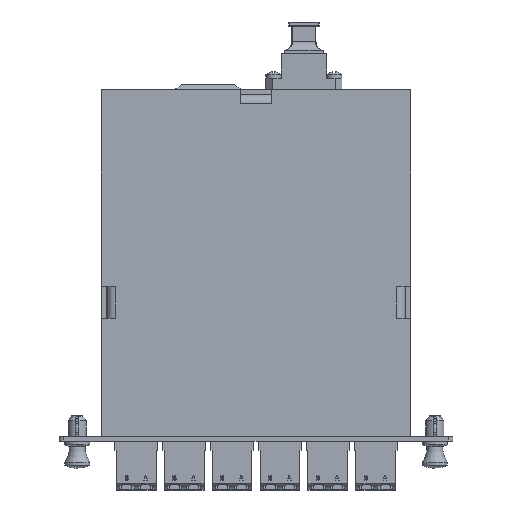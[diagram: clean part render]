
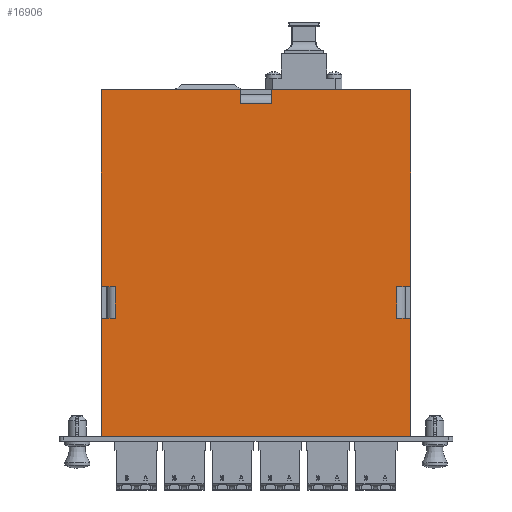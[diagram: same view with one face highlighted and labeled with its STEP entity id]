
A CAD part, top view. The second image highlights one B-rep face of the part: STEP entity #16906.
In plain terms, the highlighted planar face has unit normal (0, 0, 1).
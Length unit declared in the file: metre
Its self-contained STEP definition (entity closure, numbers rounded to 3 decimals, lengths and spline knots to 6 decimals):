
#4397=ORIENTED_EDGE('',*,*,#7425,.F.);
#4398=ORIENTED_EDGE('',*,*,#7422,.F.);
#4399=ORIENTED_EDGE('',*,*,#7391,.T.);
#4400=ORIENTED_EDGE('',*,*,#7440,.F.);
#4401=ORIENTED_EDGE('',*,*,#7421,.F.);
#4402=ORIENTED_EDGE('',*,*,#7416,.F.);
#4403=ORIENTED_EDGE('',*,*,#7413,.T.);
#4404=ORIENTED_EDGE('',*,*,#7410,.T.);
#4405=ORIENTED_EDGE('',*,*,#7441,.T.);
#4406=ORIENTED_EDGE('',*,*,#7397,.F.);
#4407=ORIENTED_EDGE('',*,*,#7407,.T.);
#4408=ORIENTED_EDGE('',*,*,#7404,.F.);
#4409=ORIENTED_EDGE('',*,*,#7401,.F.);
#4410=ORIENTED_EDGE('',*,*,#7395,.T.);
#4411=ORIENTED_EDGE('',*,*,#7442,.F.);
#4412=ORIENTED_EDGE('',*,*,#7430,.F.);
#7391=EDGE_CURVE('',#9208,#9207,#10999,.F.);
#7395=EDGE_CURVE('',#9212,#9211,#11002,.F.);
#7397=EDGE_CURVE('',#9213,#9214,#11004,.F.);
#7401=EDGE_CURVE('',#9212,#9217,#11007,.T.);
#7404=EDGE_CURVE('',#9217,#9219,#11010,.T.);
#7407=EDGE_CURVE('',#9213,#9219,#11013,.T.);
#7410=EDGE_CURVE('',#9223,#9221,#11015,.F.);
#7413=EDGE_CURVE('',#9225,#9223,#11018,.T.);
#7416=EDGE_CURVE('',#9225,#9227,#11021,.T.);
#7421=EDGE_CURVE('',#9227,#9230,#11025,.F.);
#7422=EDGE_CURVE('',#9208,#9231,#11026,.T.);
#7425=EDGE_CURVE('',#9231,#9233,#11029,.T.);
#7430=EDGE_CURVE('',#9233,#9236,#11033,.F.);
#7440=EDGE_CURVE('',#9230,#9207,#11043,.T.);
#7441=EDGE_CURVE('',#9221,#9214,#11044,.F.);
#7442=EDGE_CURVE('',#9236,#9211,#11045,.T.);
#9207=VERTEX_POINT('',#27630);
#9208=VERTEX_POINT('',#27632);
#9211=VERTEX_POINT('',#27639);
#9212=VERTEX_POINT('',#27641);
#9213=VERTEX_POINT('',#27645);
#9214=VERTEX_POINT('',#27646);
#9217=VERTEX_POINT('',#27654);
#9219=VERTEX_POINT('',#27660);
#9221=VERTEX_POINT('',#27669);
#9223=VERTEX_POINT('',#27672);
#9225=VERTEX_POINT('',#27678);
#9227=VERTEX_POINT('',#27684);
#9230=VERTEX_POINT('',#27691);
#9231=VERTEX_POINT('',#27696);
#9233=VERTEX_POINT('',#27702);
#9236=VERTEX_POINT('',#27709);
#10999=LINE('',#27631,#12862);
#11002=LINE('',#27640,#12865);
#11004=LINE('',#27644,#12867);
#11007=LINE('',#27653,#12870);
#11010=LINE('',#27659,#12873);
#11013=LINE('',#27665,#12876);
#11015=LINE('',#27671,#12878);
#11018=LINE('',#27677,#12881);
#11021=LINE('',#27683,#12884);
#11025=LINE('',#27693,#12888);
#11026=LINE('',#27695,#12889);
#11029=LINE('',#27701,#12892);
#11033=LINE('',#27711,#12896);
#11043=LINE('',#27729,#12906);
#11044=LINE('',#27730,#12907);
#11045=LINE('',#27731,#12908);
#12862=VECTOR('',#22033,1.);
#12865=VECTOR('',#22040,1.);
#12867=VECTOR('',#22044,1.);
#12870=VECTOR('',#22051,1.);
#12873=VECTOR('',#22056,1.);
#12876=VECTOR('',#22061,1.);
#12878=VECTOR('',#22067,1.);
#12881=VECTOR('',#22072,1.);
#12884=VECTOR('',#22077,1.);
#12888=VECTOR('',#22085,1.);
#12889=VECTOR('',#22088,1.);
#12892=VECTOR('',#22093,1.);
#12896=VECTOR('',#22101,1.);
#12906=VECTOR('',#22115,1.);
#12907=VECTOR('',#22116,1.);
#12908=VECTOR('',#22117,1.);
#14170=EDGE_LOOP('',(#4397,#4398,#4399,#4400,#4401,#4402,#4403,#4404,#4405,
#4406,#4407,#4408,#4409,#4410,#4411,#4412));
#15259=FACE_BOUND('',#14170,.T.);
#16074=PLANE('',#18528);
#16906=ADVANCED_FACE('',(#15259),#16074,.F.);
#18528=AXIS2_PLACEMENT_3D('',#27728,#22113,#22114);
#22033=DIRECTION('',(0.,1.,0.));
#22040=DIRECTION('',(1.,0.,0.));
#22044=DIRECTION('',(-1.,0.,0.));
#22051=DIRECTION('',(0.,-1.,0.));
#22056=DIRECTION('',(-1.,0.,0.));
#22061=DIRECTION('',(0.,-1.,0.));
#22067=DIRECTION('',(-1.,0.,0.));
#22072=DIRECTION('',(0.,-1.,0.));
#22077=DIRECTION('',(1.,0.,0.));
#22085=DIRECTION('',(0.,1.,0.));
#22088=DIRECTION('',(1.,0.,0.));
#22093=DIRECTION('',(0.,-1.,0.));
#22101=DIRECTION('',(1.,0.,0.));
#22113=DIRECTION('',(0.,0.,-1.));
#22114=DIRECTION('',(-1.,0.,0.));
#22115=DIRECTION('',(1.,0.,0.));
#22116=DIRECTION('',(0.,1.,0.));
#22117=DIRECTION('',(0.,-1.,0.));
#27630=CARTESIAN_POINT('',(0.00525,0.0534,0.0285));
#27631=CARTESIAN_POINT('',(0.00525,0.058002,0.0285));
#27632=CARTESIAN_POINT('',(0.00525,0.058,0.0285));
#27639=CARTESIAN_POINT('',(0.0464,-0.0175,0.0285));
#27640=CARTESIAN_POINT('',(0.002135,-0.0175,0.0285));
#27641=CARTESIAN_POINT('',(0.051,-0.0175,0.0285));
#27644=CARTESIAN_POINT('',(-0.051,-0.0175,0.0285));
#27645=CARTESIAN_POINT('',(-0.051,-0.0175,0.0285));
#27646=CARTESIAN_POINT('',(-0.0464,-0.0175,0.0285));
#27653=CARTESIAN_POINT('',(0.051,0.058002,0.0285));
#27654=CARTESIAN_POINT('',(0.051,-0.0565,0.0285));
#27659=CARTESIAN_POINT('',(0.002135,-0.0565,0.0285));
#27660=CARTESIAN_POINT('',(-0.051,-0.0565,0.0285));
#27665=CARTESIAN_POINT('',(-0.051,0.058002,0.0285));
#27669=CARTESIAN_POINT('',(-0.0464,-0.007,0.0285));
#27671=CARTESIAN_POINT('',(0.002135,-0.007,0.0285));
#27672=CARTESIAN_POINT('',(-0.051,-0.007,0.0285));
#27677=CARTESIAN_POINT('',(-0.051,0.058002,0.0285));
#27678=CARTESIAN_POINT('',(-0.051,0.058,0.0285));
#27683=CARTESIAN_POINT('',(0.002135,0.058,0.0285));
#27684=CARTESIAN_POINT('',(-0.00525,0.058,0.0285));
#27691=CARTESIAN_POINT('',(-0.00525,0.0534,0.0285));
#27693=CARTESIAN_POINT('',(-0.00525,0.058,0.0285));
#27695=CARTESIAN_POINT('',(0.002135,0.058,0.0285));
#27696=CARTESIAN_POINT('',(0.051,0.058,0.0285));
#27701=CARTESIAN_POINT('',(0.051,0.058002,0.0285));
#27702=CARTESIAN_POINT('',(0.051,-0.007,0.0285));
#27709=CARTESIAN_POINT('',(0.0464,-0.007,0.0285));
#27711=CARTESIAN_POINT('',(0.051,-0.007,0.0285));
#27728=CARTESIAN_POINT('',(0.002135,0.058002,0.0285));
#27729=CARTESIAN_POINT('',(0.002135,0.0534,0.0285));
#27730=CARTESIAN_POINT('',(-0.0464,0.058002,0.0285));
#27731=CARTESIAN_POINT('',(0.0464,0.058002,0.0285));
